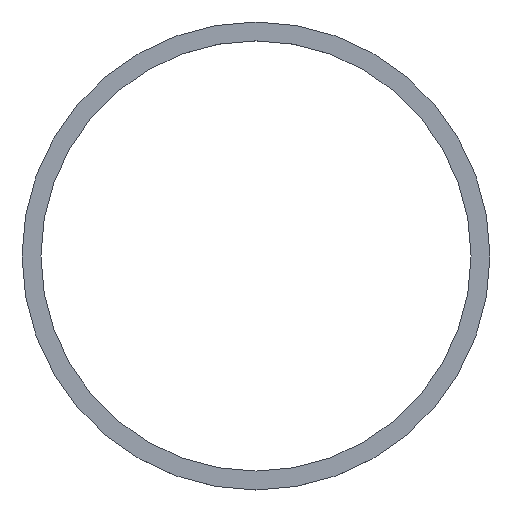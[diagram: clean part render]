
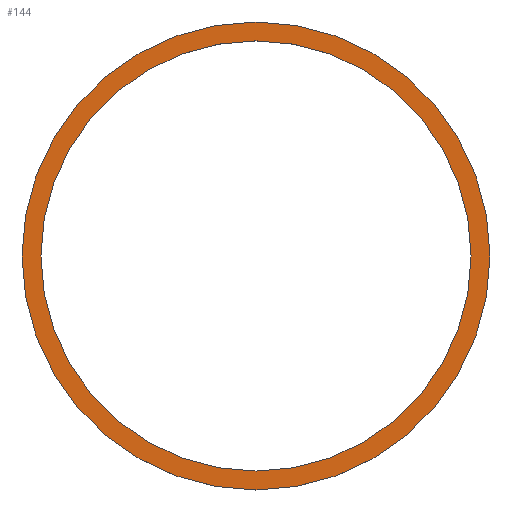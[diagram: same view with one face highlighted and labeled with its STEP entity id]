
A CAD part, top view. The second image highlights one B-rep face of the part: STEP entity #144.
In plain terms, the highlighted planar face has unit normal (0, 0, 1).
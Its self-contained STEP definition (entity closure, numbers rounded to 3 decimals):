
#31 = CYLINDRICAL_SURFACE('',#32,19.8);
#32 = AXIS2_PLACEMENT_3D('',#33,#34,#35);
#33 = CARTESIAN_POINT('',(0.,33.,10.3));
#34 = DIRECTION('',(-0.,-0.,-1.));
#35 = DIRECTION('',(1.,0.,0.));
#56 = VERTEX_POINT('',#57);
#57 = CARTESIAN_POINT('',(19.8,33.,11.1));
#78 = EDGE_CURVE('',#56,#56,#79,.T.);
#79 = SURFACE_CURVE('',#80,(#85,#92),.PCURVE_S1.);
#80 = CIRCLE('',#81,19.8);
#81 = AXIS2_PLACEMENT_3D('',#82,#83,#84);
#82 = CARTESIAN_POINT('',(0.,33.,11.1));
#83 = DIRECTION('',(0.,0.,1.));
#84 = DIRECTION('',(1.,0.,-0.));
#85 = PCURVE('',#31,#86);
#86 = DEFINITIONAL_REPRESENTATION('',(#87),#91);
#87 = LINE('',#88,#89);
#88 = CARTESIAN_POINT('',(6.283,-0.8));
#89 = VECTOR('',#90,1.);
#90 = DIRECTION('',(-1.,0.));
#91 = ( GEOMETRIC_REPRESENTATION_CONTEXT(2) 
PARAMETRIC_REPRESENTATION_CONTEXT() REPRESENTATION_CONTEXT('2D SPACE',''
  ) );
#92 = PCURVE('',#93,#98);
#93 = PLANE('',#94);
#94 = AXIS2_PLACEMENT_3D('',#95,#96,#97);
#95 = CARTESIAN_POINT('',(0.,33.,11.1));
#96 = DIRECTION('',(0.,0.,1.));
#97 = DIRECTION('',(1.,0.,-0.));
#98 = DEFINITIONAL_REPRESENTATION('',(#99),#103);
#99 = CIRCLE('',#100,19.8);
#100 = AXIS2_PLACEMENT_2D('',#101,#102);
#101 = CARTESIAN_POINT('',(0.,0.));
#102 = DIRECTION('',(1.,0.));
#103 = ( GEOMETRIC_REPRESENTATION_CONTEXT(2) 
PARAMETRIC_REPRESENTATION_CONTEXT() REPRESENTATION_CONTEXT('2D SPACE',''
  ) );
#133 = CYLINDRICAL_SURFACE('',#134,18.2);
#134 = AXIS2_PLACEMENT_3D('',#135,#136,#137);
#135 = CARTESIAN_POINT('',(0.,33.,10.1));
#136 = DIRECTION('',(-0.,-0.,-1.));
#137 = DIRECTION('',(1.,0.,0.));
#144 = ADVANCED_FACE('',(#145,#148),#93,.T.);
#145 = FACE_BOUND('',#146,.T.);
#146 = EDGE_LOOP('',(#147));
#147 = ORIENTED_EDGE('',*,*,#78,.T.);
#148 = FACE_BOUND('',#149,.T.);
#149 = EDGE_LOOP('',(#150));
#150 = ORIENTED_EDGE('',*,*,#151,.T.);
#151 = EDGE_CURVE('',#152,#152,#154,.T.);
#152 = VERTEX_POINT('',#153);
#153 = CARTESIAN_POINT('',(18.2,33.,11.1));
#154 = SURFACE_CURVE('',#155,(#160,#171),.PCURVE_S1.);
#155 = CIRCLE('',#156,18.2);
#156 = AXIS2_PLACEMENT_3D('',#157,#158,#159);
#157 = CARTESIAN_POINT('',(0.,33.,11.1));
#158 = DIRECTION('',(0.,0.,-1.));
#159 = DIRECTION('',(1.,0.,0.));
#160 = PCURVE('',#93,#161);
#161 = DEFINITIONAL_REPRESENTATION('',(#162),#170);
#162 = ( BOUNDED_CURVE() B_SPLINE_CURVE(2,(#163,#164,#165,#166,#167,#168
,#169),.UNSPECIFIED.,.T.,.F.) B_SPLINE_CURVE_WITH_KNOTS((1,2,2,2,2,1),(
    -2.094,0.,2.094,4.189,6.283,
8.378),.UNSPECIFIED.) CURVE() GEOMETRIC_REPRESENTATION_ITEM() 
RATIONAL_B_SPLINE_CURVE((1.,0.5,1.,0.5,1.,0.5,1.)) REPRESENTATION_ITEM(
  '') );
#163 = CARTESIAN_POINT('',(18.2,0.));
#164 = CARTESIAN_POINT('',(18.2,-31.523));
#165 = CARTESIAN_POINT('',(-9.1,-15.762));
#166 = CARTESIAN_POINT('',(-36.4,0.));
#167 = CARTESIAN_POINT('',(-9.1,15.762));
#168 = CARTESIAN_POINT('',(18.2,31.523));
#169 = CARTESIAN_POINT('',(18.2,0.));
#170 = ( GEOMETRIC_REPRESENTATION_CONTEXT(2) 
PARAMETRIC_REPRESENTATION_CONTEXT() REPRESENTATION_CONTEXT('2D SPACE',''
  ) );
#171 = PCURVE('',#133,#172);
#172 = DEFINITIONAL_REPRESENTATION('',(#173),#177);
#173 = LINE('',#174,#175);
#174 = CARTESIAN_POINT('',(0.,-1.));
#175 = VECTOR('',#176,1.);
#176 = DIRECTION('',(1.,-0.));
#177 = ( GEOMETRIC_REPRESENTATION_CONTEXT(2) 
PARAMETRIC_REPRESENTATION_CONTEXT() REPRESENTATION_CONTEXT('2D SPACE',''
  ) );
